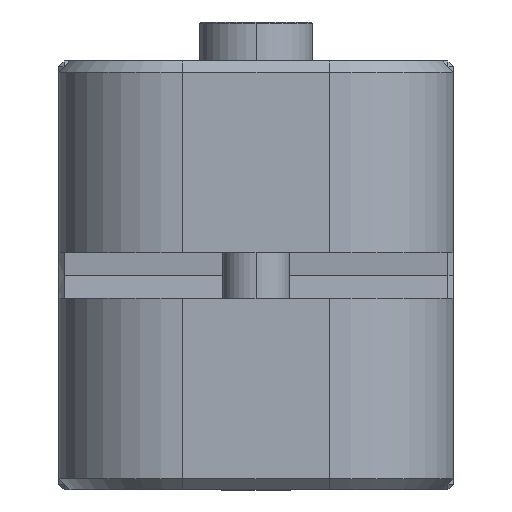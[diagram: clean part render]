
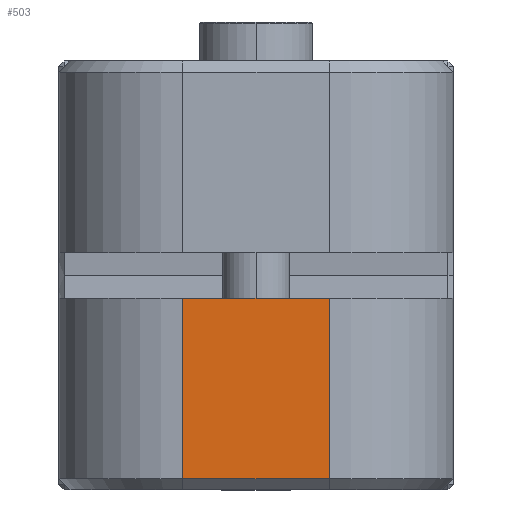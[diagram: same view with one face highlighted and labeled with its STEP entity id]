
A CAD part, left-side view. The second image highlights one B-rep face of the part: STEP entity #503.
In plain terms, the highlighted planar face has unit normal (-1, 0, 0) as drawn and (1, 0, 0) by its records, which use the part's own axes.
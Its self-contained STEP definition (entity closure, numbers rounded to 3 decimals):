
#184 = CARTESIAN_POINT ( 'NONE',  ( 71.918, 24.764, -37.971 ) ) ;
#503 = ADVANCED_FACE ( 'NONE', ( #7526 ), #2516, .T. ) ;
#754 = VECTOR ( 'NONE', #3016, 1000. ) ;
#2136 = CARTESIAN_POINT ( 'NONE',  ( 71.918, 16.764, -37.971 ) ) ;
#2282 = LINE ( 'NONE', #10023, #8809 ) ;
#2320 = AXIS2_PLACEMENT_3D ( 'NONE', #5852, #4916, #9246 ) ;
#2395 = DIRECTION ( 'NONE',  ( 0., -1., 0. ) ) ;
#2495 = VERTEX_POINT ( 'NONE', #184 ) ;
#2516 = PLANE ( 'NONE',  #2320 ) ;
#2601 = VECTOR ( 'NONE', #7452, 1000. ) ;
#2663 = ORIENTED_EDGE ( 'NONE', *, *, #8788, .T. ) ;
#3016 = DIRECTION ( 'NONE',  ( 0., 1., 0. ) ) ;
#3123 = CARTESIAN_POINT ( 'NONE',  ( 71.918, 24.764, -31.471 ) ) ;
#3910 = LINE ( 'NONE', #2136, #754 ) ;
#3946 = CARTESIAN_POINT ( 'NONE',  ( 71.918, 8.764, -31.471 ) ) ;
#4864 = CARTESIAN_POINT ( 'NONE',  ( 71.918, 8.764, -24.971 ) ) ;
#4909 = EDGE_CURVE ( 'NONE', #7402, #2495, #3910, .T. ) ;
#4916 = DIRECTION ( 'NONE',  ( 1., 0., 0. ) ) ;
#5192 = VECTOR ( 'NONE', #5520, 1000. ) ;
#5303 = ORIENTED_EDGE ( 'NONE', *, *, #4909, .T. ) ;
#5520 = DIRECTION ( 'NONE',  ( 0., 0., 1. ) ) ;
#5735 = LINE ( 'NONE', #3946, #2601 ) ;
#5852 = CARTESIAN_POINT ( 'NONE',  ( 71.918, 8.764, -37.971 ) ) ;
#6923 = VERTEX_POINT ( 'NONE', #9452 ) ;
#7402 = VERTEX_POINT ( 'NONE', #9786 ) ;
#7452 = DIRECTION ( 'NONE',  ( 0., 0., -1. ) ) ;
#7526 = FACE_OUTER_BOUND ( 'NONE', #9728, .T. ) ;
#7641 = EDGE_CURVE ( 'NONE', #9744, #7402, #5735, .T. ) ;
#7649 = EDGE_CURVE ( 'NONE', #6923, #9744, #2282, .T. ) ;
#8788 = EDGE_CURVE ( 'NONE', #2495, #6923, #10873, .T. ) ;
#8809 = VECTOR ( 'NONE', #2395, 1000. ) ;
#9246 = DIRECTION ( 'NONE',  ( 0., 1., 0. ) ) ;
#9452 = CARTESIAN_POINT ( 'NONE',  ( 71.918, 24.764, -24.971 ) ) ;
#9609 = ORIENTED_EDGE ( 'NONE', *, *, #7641, .T. ) ;
#9728 = EDGE_LOOP ( 'NONE', ( #5303, #2663, #10359, #9609 ) ) ;
#9744 = VERTEX_POINT ( 'NONE', #4864 ) ;
#9786 = CARTESIAN_POINT ( 'NONE',  ( 71.918, 8.764, -37.971 ) ) ;
#10023 = CARTESIAN_POINT ( 'NONE',  ( 71.918, 16.764, -24.971 ) ) ;
#10359 = ORIENTED_EDGE ( 'NONE', *, *, #7649, .T. ) ;
#10873 = LINE ( 'NONE', #3123, #5192 ) ;
